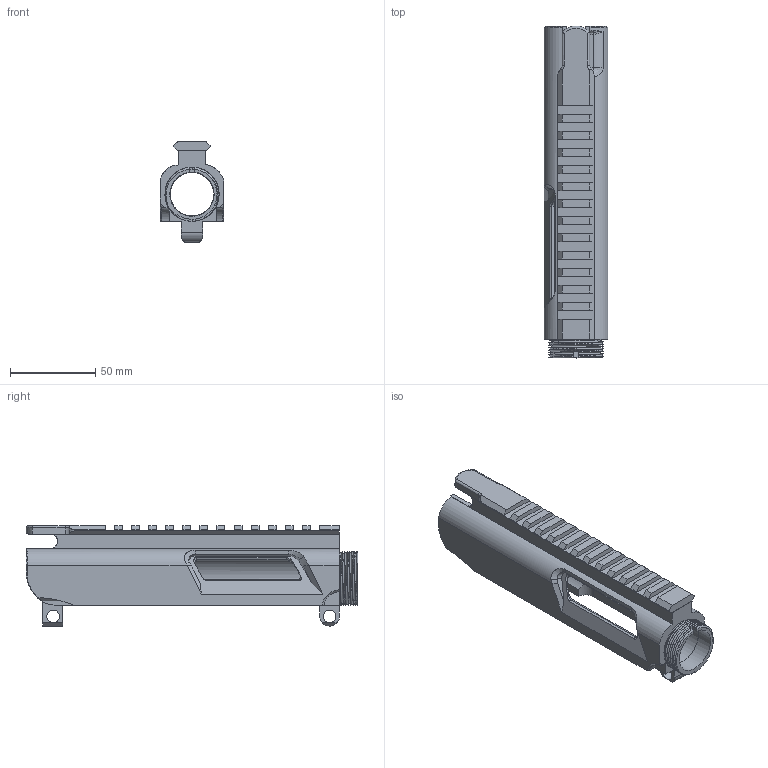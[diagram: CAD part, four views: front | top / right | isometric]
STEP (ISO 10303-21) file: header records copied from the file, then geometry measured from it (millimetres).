
FILE_DESCRIPTION(/* description */ (''),/* implementation_level */ '2;1');
FILE_NAME(/* name */ 'C:/Users/jeremy/OneDrive/Desktop/SpaceGat 22 Beta Release/Slick Upper.step',/* time_stamp */ '2021-01-18T16:46:28-07:00',/* author */ (''),/* organization */ (''),/* preprocessor_version */ 'ST-DEVELOPER v18.1',/* originating_system */ 'Autodesk Translation Framework v9.7.1.1290',/* authorisation */ '');
FILE_SCHEMA (('AUTOMOTIVE_DESIGN { 1 0 10303 214 3 1 1 }'));
Length unit declared in the file: inch
Products named in the file (1): Slick Upper
Bounding box: 37.37 x 194.4 x 59 mm (x, y, z)
Volume: 111988.8 mm3; surface area: 52099 mm2
Topology: 1 solids, 1 shells, 412 faces, 1193 edges, 778 vertices
Faces by surface type: plane 240, cylinder 88, cone 50, bspline 28, torus 6
Full cylindrical faces by diameter (mm): 7.35 x1, 7.358 x1, 25.546 x1, 25.927 x1, 29.782 x1, 31.7 x4
Entity records: 16179 total; most frequent: CARTESIAN_POINT 5620, ORIENTED_EDGE 2378, DIRECTION 1952, EDGE_CURVE 1189, VERTEX_POINT 778, LINE 762, VECTOR 762, AXIS2_PLACEMENT_3D 595
